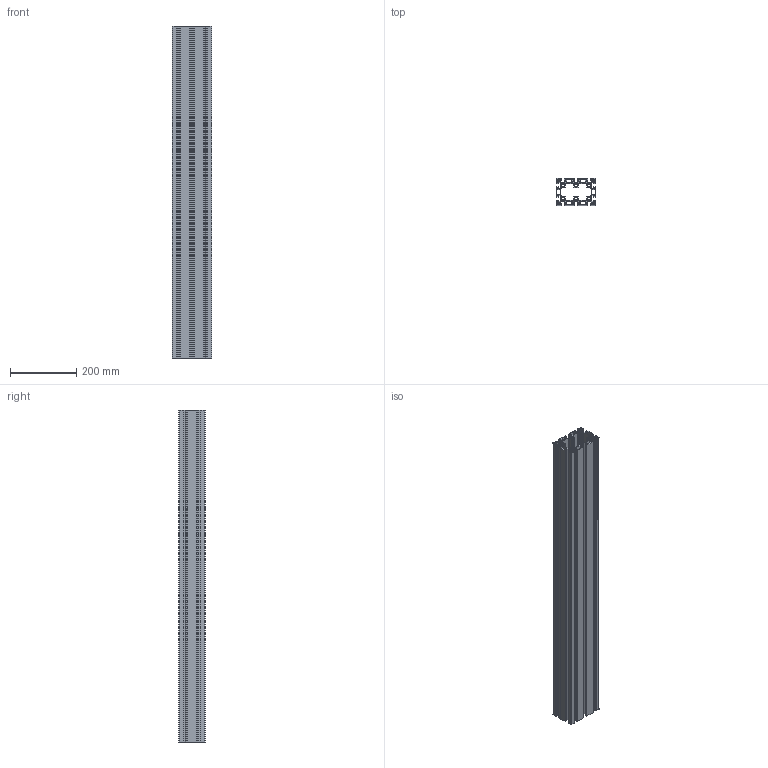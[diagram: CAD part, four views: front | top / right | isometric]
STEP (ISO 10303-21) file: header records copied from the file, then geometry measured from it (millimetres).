
FILE_DESCRIPTION (( 'STEP AP203' ), '1' );
FILE_NAME ('80 X 120 SÝGMA PRF K10.STEP', '2017-06-22T09:52:38', ( '' ), ( '' ), 'SwSTEP 2.0', 'SolidWorks 2016', '' );
FILE_SCHEMA (( 'CONFIG_CONTROL_DESIGN' ));
Length unit declared in the file: millimetre
Products named in the file (1): 80 X 120 SÝGMA PRF K10
Bounding box: 120 x 80 x 1000 mm (x, y, z)
Volume: 2432558.5 mm3; surface area: 1942811.4 mm2
Topology: 1 solids, 1 shells, 1088 faces, 3258 edges, 2172 vertices
Faces by surface type: cylinder 566, plane 522
Entity records: 37139 total; most frequent: DIRECTION 6568, CARTESIAN_POINT 6519, ORIENTED_EDGE 6516, EDGE_CURVE 3258, AXIS2_PLACEMENT_3D 2221, VERTEX_POINT 2172, LINE 2126, VECTOR 2126
